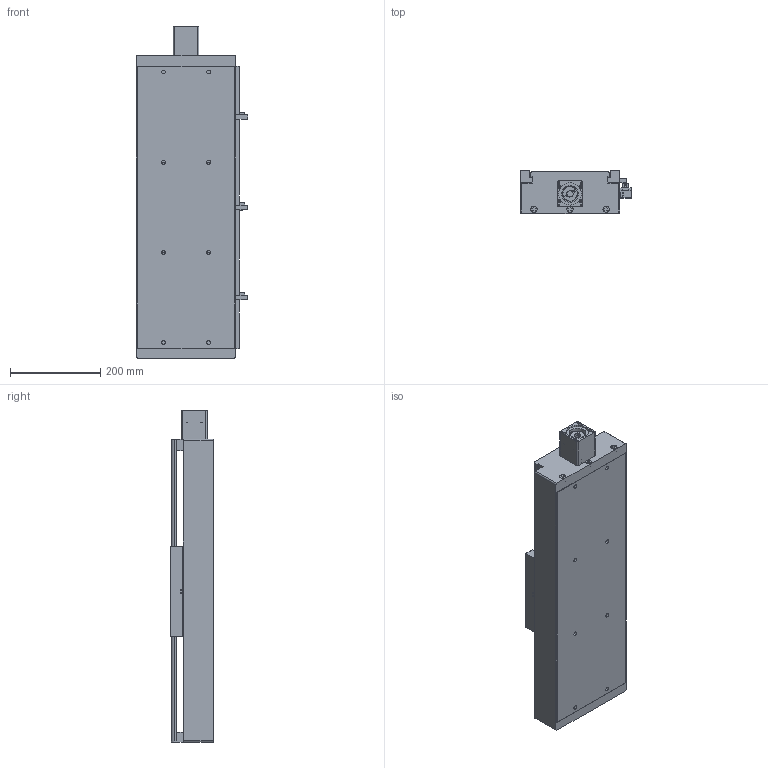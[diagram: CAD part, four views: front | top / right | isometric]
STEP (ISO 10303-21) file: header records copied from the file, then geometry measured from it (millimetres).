
FILE_DESCRIPTION((''),'2;1');
FILE_NAME('E:\libraries\UIA actuator library 2016\standard actuator\UIA220R20NDC\UIA220R20NDC ball screw 20\UIA220R20NDC-_ _ _-R20_ _ stp file, 01May16\UIA220R20NDC-400-R20_ _-M60-P13-C10-S.stp','2016-04-29T14:47:50',('h029'),(''),'Autodesk Inventor 11','Autodesk Inventor 11','');
FILE_SCHEMA(('AUTOMOTIVE_DESIGN { 1 0 10303 214 1 1 1 1 }'));
Length unit declared in the file: millimetre
Products named in the file (10): UIA220R20NDC-400-R20_ _; UIA220R20NDC-body; 41-100 0010 CARRIAGE; sensor rail; Sensor Switch; motor mount M60; SOH-32C; SOH-32C-3; SOH-32C-1; SOH-32C-2
Assembly tree (9 placements, depth 3):
  UIA220R20NDC-400-R20_ _
    UIA220R20NDC-body
    41-100 0010 CARRIAGE
    sensor rail
    Sensor Switch
    motor mount M60
    SOH-32C
      SOH-32C-3
      SOH-32C-1
      SOH-32C-2
Bounding box: 246.5 x 96 x 736 mm (x, y, z)
Volume: 4761346.3 mm3; surface area: 1070448.2 mm2
Topology: 8 solids, 8 shells, 516 faces, 1378 edges, 906 vertices
Faces by surface type: plane 341, bspline 121, cylinder 52, cone 2
Full cylindrical faces by diameter (mm): 3.242 x2, 4.5 x2, 7 x4, 7.5 x2, 12 x2, 13.8 x3, 14 x4, 15 x1, 32 x3, 37 x1, 46.9 x1, 47.1 x1
Entity records: 16866 total; most frequent: CARTESIAN_POINT 4756, ORIENTED_EDGE 2354, DIRECTION 2309, EDGE_CURVE 1177, VECTOR 853, LINE 853, VERTEX_POINT 832, EDGE_LOOP 747
